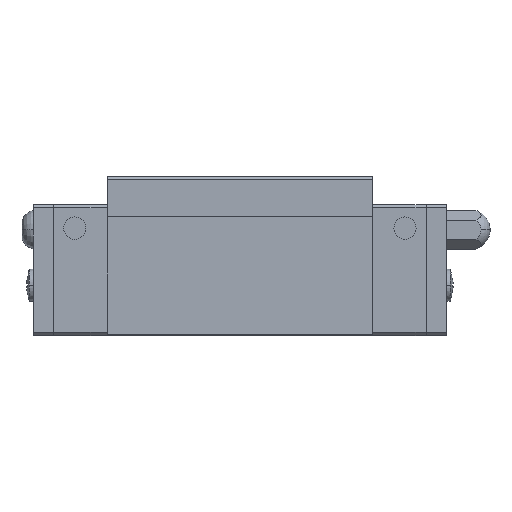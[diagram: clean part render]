
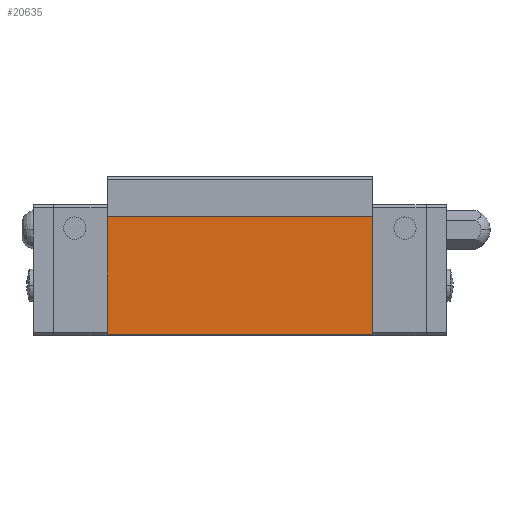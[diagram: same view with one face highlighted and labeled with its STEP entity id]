
A CAD part, left-side view. The second image highlights one B-rep face of the part: STEP entity #20635.
In plain terms, the highlighted planar face has unit normal (-1, 0, 0).
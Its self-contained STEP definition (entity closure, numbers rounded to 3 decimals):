
#12042 = PLANE('',#12043);
#12043 = AXIS2_PLACEMENT_3D('',#12044,#12045,#12046);
#12044 = CARTESIAN_POINT('',(0.,50.4,16.15));
#12045 = DIRECTION('',(0.,-1.,0.));
#12046 = DIRECTION('',(1.,0.,0.));
#18200 = PLANE('',#18201);
#18201 = AXIS2_PLACEMENT_3D('',#18202,#18203,#18204);
#18202 = CARTESIAN_POINT('',(0.,11.,16.15));
#18203 = DIRECTION('',(0.,-1.,0.));
#18204 = DIRECTION('',(1.,0.,0.));
#19994 = VERTEX_POINT('',#19995);
#19995 = CARTESIAN_POINT('',(-16.7,50.4,4.5));
#20009 = PLANE('',#20010);
#20010 = AXIS2_PLACEMENT_3D('',#20011,#20012,#20013);
#20011 = CARTESIAN_POINT('',(-16.5,50.4,4.3));
#20012 = DIRECTION('',(-0.707,-0.,-0.707));
#20013 = DIRECTION('',(0.707,0.,-0.707));
#20021 = EDGE_CURVE('',#19994,#20022,#20024,.T.);
#20022 = VERTEX_POINT('',#20023);
#20023 = CARTESIAN_POINT('',(-16.7,50.4,22.));
#20024 = SURFACE_CURVE('',#20025,(#20029,#20036),.PCURVE_S1.);
#20025 = LINE('',#20026,#20027);
#20026 = CARTESIAN_POINT('',(-16.7,50.4,12.075));
#20027 = VECTOR('',#20028,1.);
#20028 = DIRECTION('',(0.,0.,1.));
#20029 = PCURVE('',#12042,#20030);
#20030 = DEFINITIONAL_REPRESENTATION('',(#20031),#20035);
#20031 = LINE('',#20032,#20033);
#20032 = CARTESIAN_POINT('',(-16.7,-4.075));
#20033 = VECTOR('',#20034,1.);
#20034 = DIRECTION('',(0.,1.));
#20035 = ( GEOMETRIC_REPRESENTATION_CONTEXT(2) 
PARAMETRIC_REPRESENTATION_CONTEXT() REPRESENTATION_CONTEXT('2D SPACE',''
  ) );
#20036 = PCURVE('',#20037,#20042);
#20037 = PLANE('',#20038);
#20038 = AXIS2_PLACEMENT_3D('',#20039,#20040,#20041);
#20039 = CARTESIAN_POINT('',(-16.7,30.7,8.));
#20040 = DIRECTION('',(-1.,0.,0.));
#20041 = DIRECTION('',(0.,0.,1.));
#20042 = DEFINITIONAL_REPRESENTATION('',(#20043),#20047);
#20043 = LINE('',#20044,#20045);
#20044 = CARTESIAN_POINT('',(4.075,19.7));
#20045 = VECTOR('',#20046,1.);
#20046 = DIRECTION('',(1.,0.));
#20047 = ( GEOMETRIC_REPRESENTATION_CONTEXT(2) 
PARAMETRIC_REPRESENTATION_CONTEXT() REPRESENTATION_CONTEXT('2D SPACE',''
  ) );
#20065 = PLANE('',#20066);
#20066 = AXIS2_PLACEMENT_3D('',#20067,#20068,#20069);
#20067 = CARTESIAN_POINT('',(-25.2,30.7,22.));
#20068 = DIRECTION('',(0.,0.,1.));
#20069 = DIRECTION('',(1.,0.,-0.));
#20486 = VERTEX_POINT('',#20487);
#20487 = CARTESIAN_POINT('',(-16.7,11.,22.));
#20508 = EDGE_CURVE('',#20486,#20509,#20511,.T.);
#20509 = VERTEX_POINT('',#20510);
#20510 = CARTESIAN_POINT('',(-16.7,11.,4.5));
#20511 = SURFACE_CURVE('',#20512,(#20516,#20523),.PCURVE_S1.);
#20512 = LINE('',#20513,#20514);
#20513 = CARTESIAN_POINT('',(-16.7,11.,12.075));
#20514 = VECTOR('',#20515,1.);
#20515 = DIRECTION('',(-0.,-0.,-1.));
#20516 = PCURVE('',#18200,#20517);
#20517 = DEFINITIONAL_REPRESENTATION('',(#20518),#20522);
#20518 = LINE('',#20519,#20520);
#20519 = CARTESIAN_POINT('',(-16.7,-4.075));
#20520 = VECTOR('',#20521,1.);
#20521 = DIRECTION('',(0.,-1.));
#20522 = ( GEOMETRIC_REPRESENTATION_CONTEXT(2) 
PARAMETRIC_REPRESENTATION_CONTEXT() REPRESENTATION_CONTEXT('2D SPACE',''
  ) );
#20523 = PCURVE('',#20037,#20524);
#20524 = DEFINITIONAL_REPRESENTATION('',(#20525),#20529);
#20525 = LINE('',#20526,#20527);
#20526 = CARTESIAN_POINT('',(4.075,-19.7));
#20527 = VECTOR('',#20528,1.);
#20528 = DIRECTION('',(-1.,0.));
#20529 = ( GEOMETRIC_REPRESENTATION_CONTEXT(2) 
PARAMETRIC_REPRESENTATION_CONTEXT() REPRESENTATION_CONTEXT('2D SPACE',''
  ) );
#20614 = EDGE_CURVE('',#20486,#20022,#20615,.T.);
#20615 = SURFACE_CURVE('',#20616,(#20620,#20627),.PCURVE_S1.);
#20616 = LINE('',#20617,#20618);
#20617 = CARTESIAN_POINT('',(-16.7,30.7,22.));
#20618 = VECTOR('',#20619,1.);
#20619 = DIRECTION('',(0.,1.,0.));
#20620 = PCURVE('',#20065,#20621);
#20621 = DEFINITIONAL_REPRESENTATION('',(#20622),#20626);
#20622 = LINE('',#20623,#20624);
#20623 = CARTESIAN_POINT('',(8.5,0.));
#20624 = VECTOR('',#20625,1.);
#20625 = DIRECTION('',(0.,1.));
#20626 = ( GEOMETRIC_REPRESENTATION_CONTEXT(2) 
PARAMETRIC_REPRESENTATION_CONTEXT() REPRESENTATION_CONTEXT('2D SPACE',''
  ) );
#20627 = PCURVE('',#20037,#20628);
#20628 = DEFINITIONAL_REPRESENTATION('',(#20629),#20633);
#20629 = LINE('',#20630,#20631);
#20630 = CARTESIAN_POINT('',(14.,0.));
#20631 = VECTOR('',#20632,1.);
#20632 = DIRECTION('',(0.,1.));
#20633 = ( GEOMETRIC_REPRESENTATION_CONTEXT(2) 
PARAMETRIC_REPRESENTATION_CONTEXT() REPRESENTATION_CONTEXT('2D SPACE',''
  ) );
#20635 = ADVANCED_FACE('',(#20636),#20037,.T.);
#20636 = FACE_BOUND('',#20637,.T.);
#20637 = EDGE_LOOP('',(#20638,#20639,#20660,#20661));
#20638 = ORIENTED_EDGE('',*,*,#20021,.F.);
#20639 = ORIENTED_EDGE('',*,*,#20640,.F.);
#20640 = EDGE_CURVE('',#20509,#19994,#20641,.T.);
#20641 = SURFACE_CURVE('',#20642,(#20646,#20653),.PCURVE_S1.);
#20642 = LINE('',#20643,#20644);
#20643 = CARTESIAN_POINT('',(-16.7,40.55,4.5));
#20644 = VECTOR('',#20645,1.);
#20645 = DIRECTION('',(0.,1.,-0.));
#20646 = PCURVE('',#20037,#20647);
#20647 = DEFINITIONAL_REPRESENTATION('',(#20648),#20652);
#20648 = LINE('',#20649,#20650);
#20649 = CARTESIAN_POINT('',(-3.5,9.85));
#20650 = VECTOR('',#20651,1.);
#20651 = DIRECTION('',(0.,1.));
#20652 = ( GEOMETRIC_REPRESENTATION_CONTEXT(2) 
PARAMETRIC_REPRESENTATION_CONTEXT() REPRESENTATION_CONTEXT('2D SPACE',''
  ) );
#20653 = PCURVE('',#20009,#20654);
#20654 = DEFINITIONAL_REPRESENTATION('',(#20655),#20659);
#20655 = LINE('',#20656,#20657);
#20656 = CARTESIAN_POINT('',(-0.283,9.85));
#20657 = VECTOR('',#20658,1.);
#20658 = DIRECTION('',(0.,-1.));
#20659 = ( GEOMETRIC_REPRESENTATION_CONTEXT(2) 
PARAMETRIC_REPRESENTATION_CONTEXT() REPRESENTATION_CONTEXT('2D SPACE',''
  ) );
#20660 = ORIENTED_EDGE('',*,*,#20508,.F.);
#20661 = ORIENTED_EDGE('',*,*,#20614,.T.);
